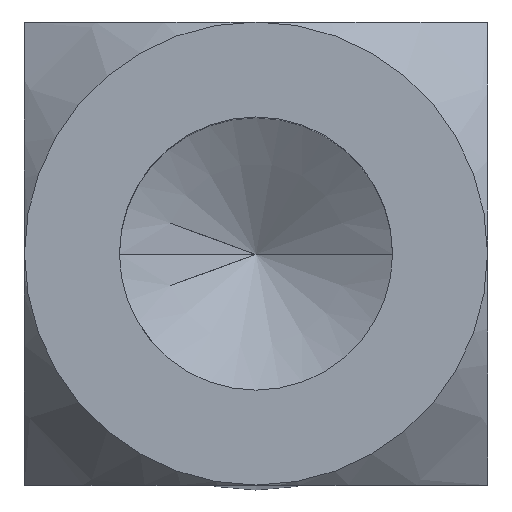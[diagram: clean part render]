
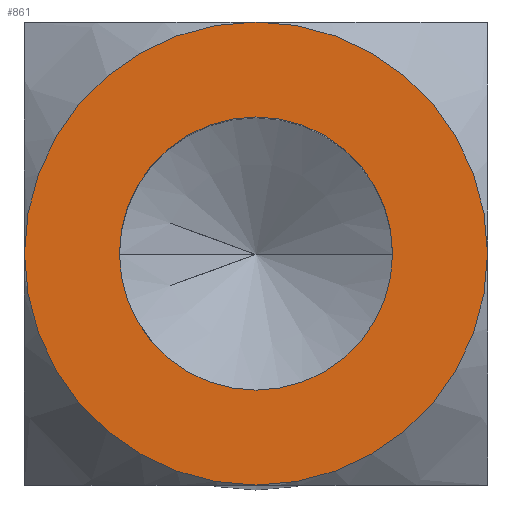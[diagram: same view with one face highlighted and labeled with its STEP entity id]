
A CAD part, top view. The second image highlights one B-rep face of the part: STEP entity #861.
In plain terms, the highlighted planar face has unit normal (0, 0, 1).
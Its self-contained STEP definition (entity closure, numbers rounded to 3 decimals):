
#16 = DIRECTION ( 'NONE',  ( -1., 0., 0. ) ) ;
#31 = CARTESIAN_POINT ( 'NONE',  ( 0., 0., 23. ) ) ;
#35 = CARTESIAN_POINT ( 'NONE',  ( 0., 0., 23. ) ) ;
#54 = CIRCLE ( 'NONE', #195, 10. ) ;
#94 = ORIENTED_EDGE ( 'NONE', *, *, #373, .T. ) ;
#116 = PLANE ( 'NONE',  #903 ) ;
#139 = DIRECTION ( 'NONE',  ( -1., 0., 0. ) ) ;
#144 = EDGE_CURVE ( 'NONE', #716, #618, #54, .T. ) ;
#168 = ORIENTED_EDGE ( 'NONE', *, *, #482, .T. ) ;
#171 = AXIS2_PLACEMENT_3D ( 'NONE', #573, #343, #648 ) ;
#191 = CARTESIAN_POINT ( 'NONE',  ( 0., 0., 23. ) ) ;
#195 = AXIS2_PLACEMENT_3D ( 'NONE', #245, #537, #16 ) ;
#239 = AXIS2_PLACEMENT_3D ( 'NONE', #191, #424, #504 ) ;
#245 = CARTESIAN_POINT ( 'NONE',  ( 0., 0., 23. ) ) ;
#258 = AXIS2_PLACEMENT_3D ( 'NONE', #31, #261, #566 ) ;
#261 = DIRECTION ( 'NONE',  ( 0., 0., 1. ) ) ;
#281 = VERTEX_POINT ( 'NONE', #657 ) ;
#289 = CARTESIAN_POINT ( 'NONE',  ( 0., 0., 23. ) ) ;
#306 = CIRCLE ( 'NONE', #563, 10. ) ;
#309 = EDGE_CURVE ( 'NONE', #486, #716, #476, .T. ) ;
#317 = CARTESIAN_POINT ( 'NONE',  ( -10., 0., 23. ) ) ;
#326 = FACE_BOUND ( 'NONE', #329, .T. ) ;
#329 = EDGE_LOOP ( 'NONE', ( #509, #168 ) ) ;
#331 = VERTEX_POINT ( 'NONE', #505 ) ;
#337 = DIRECTION ( 'NONE',  ( 0., 0., 1. ) ) ;
#343 = DIRECTION ( 'NONE',  ( 0., 0., -1. ) ) ;
#349 = CARTESIAN_POINT ( 'NONE',  ( -10.12, -10.12, 23. ) ) ;
#373 = EDGE_CURVE ( 'NONE', #281, #486, #306, .T. ) ;
#397 = VERTEX_POINT ( 'NONE', #999 ) ;
#401 = CIRCLE ( 'NONE', #239, 5.9 ) ;
#424 = DIRECTION ( 'NONE',  ( 0., 0., -1. ) ) ;
#473 = AXIS2_PLACEMENT_3D ( 'NONE', #35, #337, #972 ) ;
#476 = CIRCLE ( 'NONE', #258, 10. ) ;
#482 = EDGE_CURVE ( 'NONE', #331, #397, #522, .T. ) ;
#486 = VERTEX_POINT ( 'NONE', #723 ) ;
#504 = DIRECTION ( 'NONE',  ( 1., 0., 0. ) ) ;
#505 = CARTESIAN_POINT ( 'NONE',  ( -5.9, 0., 23. ) ) ;
#509 = ORIENTED_EDGE ( 'NONE', *, *, #865, .T. ) ;
#519 = DIRECTION ( 'NONE',  ( 0., 0., 1. ) ) ;
#522 = CIRCLE ( 'NONE', #171, 5.9 ) ;
#526 = ORIENTED_EDGE ( 'NONE', *, *, #609, .T. ) ;
#537 = DIRECTION ( 'NONE',  ( 0., 0., 1. ) ) ;
#563 = AXIS2_PLACEMENT_3D ( 'NONE', #289, #519, #139 ) ;
#566 = DIRECTION ( 'NONE',  ( -1., 0., 0. ) ) ;
#572 = ORIENTED_EDGE ( 'NONE', *, *, #144, .T. ) ;
#573 = CARTESIAN_POINT ( 'NONE',  ( 0., 0., 23. ) ) ;
#575 = CIRCLE ( 'NONE', #473, 10. ) ;
#600 = CARTESIAN_POINT ( 'NONE',  ( 0., -10., 23. ) ) ;
#609 = EDGE_CURVE ( 'NONE', #618, #281, #575, .T. ) ;
#618 = VERTEX_POINT ( 'NONE', #600 ) ;
#625 = EDGE_LOOP ( 'NONE', ( #526, #94, #705, #572 ) ) ;
#648 = DIRECTION ( 'NONE',  ( 1., 0., 0. ) ) ;
#657 = CARTESIAN_POINT ( 'NONE',  ( 10., 0., 23. ) ) ;
#705 = ORIENTED_EDGE ( 'NONE', *, *, #309, .T. ) ;
#716 = VERTEX_POINT ( 'NONE', #317 ) ;
#723 = CARTESIAN_POINT ( 'NONE',  ( 0., 10., 23. ) ) ;
#733 = DIRECTION ( 'NONE',  ( 0., 0., 1. ) ) ;
#736 = DIRECTION ( 'NONE',  ( 1., 0., 0. ) ) ;
#861 = ADVANCED_FACE ( 'NONE', ( #326, #961 ), #116, .T. ) ;
#865 = EDGE_CURVE ( 'NONE', #397, #331, #401, .T. ) ;
#903 = AXIS2_PLACEMENT_3D ( 'NONE', #349, #733, #736 ) ;
#961 = FACE_OUTER_BOUND ( 'NONE', #625, .T. ) ;
#972 = DIRECTION ( 'NONE',  ( -1., 0., 0. ) ) ;
#999 = CARTESIAN_POINT ( 'NONE',  ( 5.9, 0., 23. ) ) ;
